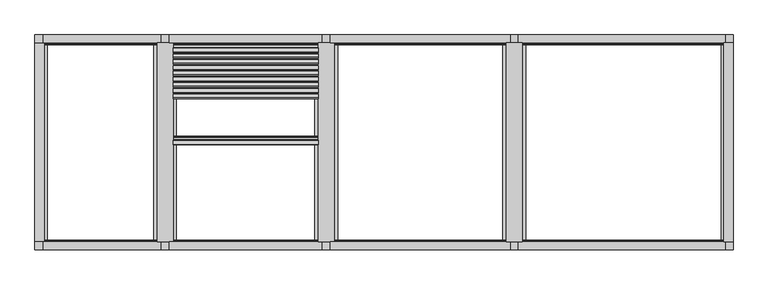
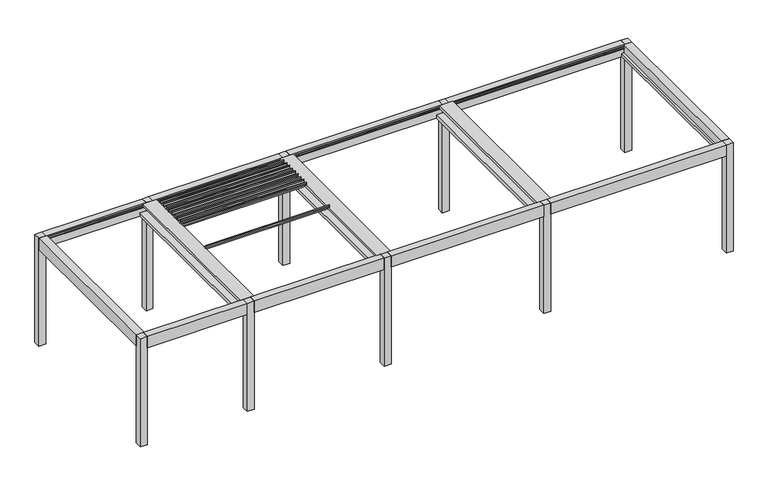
"""IFC4 building model written with IfcOpenShell, lengths in millimetres: proxy geometry, Renson_Camargue_Skye_Freestanding_Patio covers : Renson_Camargue_Skye_Freestanding_Patio covers."""

import ifcopenshell
import ifcopenshell.guid

model = None  # the IFC model being written
_history = None  # IfcOwnerHistory: only IFC2X3 demands one
_inside = {}  # id of a spatial element -> (the spatial element, [elements in it])
_under = {}  # id of a project, library or spatial element -> (it, [spatial elements below it])
_declared = {}  # id of a project -> (the project, [libraries it declares])
_typed = {}  # id of a type object -> (the type object, [elements of that type])
_made_of = {}  # id of a material, layer set ... -> (it, [elements and type objects made of it])


def new_model(schema):
    """Start an empty IFC model of exactly this schema.

    Asked for "IFC4X3", IfcOpenShell would pick the latest addendum, in which some entities
    have other attributes; the version numbers below select the first issue.
    IFC2X3 requires an IfcOwnerHistory on every rooted entity: one is made here for all.
    """
    global model, _history
    if schema == "IFC4X3":
        model = ifcopenshell.file(schema_version=(4, 3, 0, 0))
    else:
        model = ifcopenshell.file(schema=schema)
    _inside.clear()
    _under.clear()
    _declared.clear()
    _typed.clear()
    _made_of.clear()
    _history = None
    if model.schema == "IFC2X3":
        org = make("IfcOrganization", Name="unknown")
        user = make(
            "IfcPersonAndOrganization",
            ThePerson=make("IfcPerson", FamilyName="unknown"),
            TheOrganization=org,
        )
        app = make(
            "IfcApplication",
            ApplicationDeveloper=org,
            Version="unknown",
            ApplicationFullName="unknown",
            ApplicationIdentifier="unknown",
        )
        _history = make(
            "IfcOwnerHistory",
            OwningUser=user,
            OwningApplication=app,
            ChangeAction="ADDED",
            CreationDate=0,
        )
    return model


def make(cls, **values):
    """One entity of the class cls with the attributes given. An attribute that is None is left unset."""
    return model.create_entity(
        cls, **{name: value for name, value in values.items() if value is not None}
    )


def rooted(cls, **values):
    """An entity with a GlobalId (a new one), such as an element, a storey or a relation."""
    return make(cls, GlobalId=ifcopenshell.guid.new(), OwnerHistory=_history, **values)


def si_unit(unit_type, name, prefix=None):
    """IfcSIUnit, for example si_unit("LENGTHUNIT", "METRE", prefix="MILLI")."""
    return make("IfcSIUnit", UnitType=unit_type, Prefix=prefix, Name=name)


def assignment(units):
    """IfcUnitAssignment: the units of a project."""
    return None if units is None else make("IfcUnitAssignment", Units=units)


def point(xyz):
    """IfcCartesianPoint."""
    return None if xyz is None else make("IfcCartesianPoint", Coordinates=xyz)


def direction(xyz):
    """IfcDirection."""
    return None if xyz is None else make("IfcDirection", DirectionRatios=xyz)


def frame(location, z_axis=None, x_axis=None):
    """IfcAxis2Placement3D, a coordinate frame: its origin and axes. An axis left out is left unset."""
    return make(
        "IfcAxis2Placement3D",
        Location=point(location),
        Axis=direction(z_axis),
        RefDirection=direction(x_axis),
    )


def frame_2d(location, x_axis=None):
    """IfcAxis2Placement2D, a coordinate frame in the plane: its origin and x axis."""
    return make(
        "IfcAxis2Placement2D", Location=point(location), RefDirection=direction(x_axis)
    )


def origin():
    """The frame at (0, 0, 0) with its axes left unset."""
    return frame((0.0, 0.0, 0.0))


def origin_with_axes():
    """The frame at (0, 0, 0) with the z axis (0, 0, 1) and the x axis (1, 0, 0) written out."""
    return frame((0.0, 0.0, 0.0), z_axis=(0.0, 0.0, 1.0), x_axis=(1.0, 0.0, 0.0))


def place(relative_to, where):
    """IfcLocalPlacement: puts the frame where relative to a parent placement (None: the world)."""
    return make(
        "IfcLocalPlacement", PlacementRelTo=relative_to, RelativePlacement=where
    )


def context(
    kind, dimensions, precision=None, world=None, true_north=None, identifier=None
):
    """IfcGeometricRepresentationContext, for example the 3D "Model" context."""
    return make(
        "IfcGeometricRepresentationContext",
        ContextIdentifier=identifier,
        ContextType=kind,
        CoordinateSpaceDimension=dimensions,
        Precision=precision,
        WorldCoordinateSystem=world,
        TrueNorth=true_north,
    )


def project(units=None, contexts=None):
    """IfcProject with its units and contexts."""
    return rooted(
        "IfcProject",
        Name="project",
        RepresentationContexts=contexts,
        UnitsInContext=assignment(units),
    )


def spatial(cls, under=None, at=None, **own):
    """A site, building, storey or space (cls), placed at a placement, below another one or the project."""
    s = rooted(cls, ObjectPlacement=at, **own)
    if under is not None:
        _under.setdefault(under.id(), (under, []))[1].append(s)
    return s


def polyline(points):
    """IfcPolyline through the points."""
    return make("IfcPolyline", Points=[point(p) for p in points])


def circle_curve(where, radius):
    """IfcCircle in the frame where."""
    return make("IfcCircle", Position=where, Radius=radius)


def trimmed(basis, trim1, trim2, sense, master):
    """IfcTrimmedCurve: the piece of a basis curve between two trims."""
    return make(
        "IfcTrimmedCurve",
        BasisCurve=basis,
        Trim1=trim1,
        Trim2=trim2,
        SenseAgreement=sense,
        MasterRepresentation=master,
    )


def segment(curve, same_sense, transition):
    """IfcCompositeCurveSegment."""
    return make(
        "IfcCompositeCurveSegment",
        Transition=transition,
        SameSense=same_sense,
        ParentCurve=curve,
    )


def composite_curve(segments, self_intersect=None):
    """IfcCompositeCurve: segments joined end to end."""
    return make("IfcCompositeCurve", Segments=segments, SelfIntersect=self_intersect)


def outline(outer, holes=None, kind="AREA"):
    """IfcArbitraryClosedProfileDef: a profile drawn as a closed curve; with holes, ...WithVoids."""
    if holes is None:
        return make("IfcArbitraryClosedProfileDef", ProfileType=kind, OuterCurve=outer)
    return make(
        "IfcArbitraryProfileDefWithVoids",
        ProfileType=kind,
        OuterCurve=outer,
        InnerCurves=holes,
    )


def extrude(swept, where, along, depth):
    """IfcExtrudedAreaSolid: the profile swept, set in the frame where, extruded along a direction by depth."""
    return make(
        "IfcExtrudedAreaSolid",
        SweptArea=swept,
        Position=where,
        ExtrudedDirection=direction(along),
        Depth=depth,
    )


def shape(context_of_items, identifier, shape_type, items):
    """IfcShapeRepresentation: the items that make up one representation, for example the "Body"."""
    return make(
        "IfcShapeRepresentation",
        ContextOfItems=context_of_items,
        RepresentationIdentifier=identifier,
        RepresentationType=shape_type,
        Items=items,
    )


def source(mapping_origin, context_of_items, identifier, shape_type, items):
    """IfcRepresentationMap: a shape defined once, which mapped items show again and again."""
    return make(
        "IfcRepresentationMap",
        MappingOrigin=mapping_origin,
        MappedRepresentation=shape(context_of_items, identifier, shape_type, items),
    )


def transform(
    local_origin,
    x_axis=None,
    y_axis=None,
    z_axis=None,
    scale=None,
    scale2=None,
    scale3=None,
    uniform=True,
):
    """IfcCartesianTransformationOperator3D, or its non-uniform kind. x_axis, y_axis, z_axis: its Axis1, 2, 3."""
    if uniform:
        return make(
            "IfcCartesianTransformationOperator3D",
            Axis1=direction(x_axis),
            Axis2=direction(y_axis),
            LocalOrigin=point(local_origin),
            Scale=scale,
            Axis3=direction(z_axis),
        )
    return make(
        "IfcCartesianTransformationOperator3DnonUniform",
        Axis1=direction(x_axis),
        Axis2=direction(y_axis),
        LocalOrigin=point(local_origin),
        Scale=scale,
        Axis3=direction(z_axis),
        Scale2=scale2,
        Scale3=scale3,
    )


def mapped(mapping_source, mapping_target):
    """IfcMappedItem: shows the shape of a source again, moved by a transform."""
    return make(
        "IfcMappedItem", MappingSource=mapping_source, MappingTarget=mapping_target
    )


def made_of(thing, what):
    """Note that an element or type object is made of a material, layer set ...; save() writes the relation."""
    if what is not None:
        _made_of.setdefault(what.id(), (what, []))[1].append(thing)
    return thing


def element(
    cls,
    number,
    at=None,
    inside=None,
    cuts=None,
    type_object=None,
    material=None,
    context=None,
    identifier="Body",
    shape_type=None,
    held_by="IfcProductDefinitionShape",
    body=None,
    shapes=None,
    **own,
):
    """One element of the class cls, such as IfcWall. Its Tag is "e" and its number.

    at: its placement. inside: the storey or other place that contains it. cuts: it is an
    opening in that element (IfcRelVoidsElement). A single representation is given by context,
    identifier, shape_type and body (its items); several are given by shapes. held_by: the class
    of the entity that holds the representations. save() writes the other relations.
    """
    e = rooted(cls, Tag="e%d" % number, ObjectPlacement=at, **own)
    if body is not None:
        shapes = [shape(context, identifier, shape_type, body)]
    if shapes is not None:
        e.Representation = make(held_by, Representations=shapes)
    if inside is not None:
        _inside.setdefault(inside.id(), (inside, []))[1].append(e)
    if cuts is not None:
        rooted(
            "IfcRelVoidsElement", RelatingBuildingElement=cuts, RelatedOpeningElement=e
        )
    if type_object is not None:
        _typed.setdefault(type_object.id(), (type_object, []))[1].append(e)
    return made_of(e, material)


def aggregate(whole, parts):
    """IfcRelAggregates: a whole, such as a stair, and the parts it consists of."""
    return rooted("IfcRelAggregates", RelatingObject=whole, RelatedObjects=parts)


def save(model, path):
    """Write the relations noted so far, then the file.

    IfcRelAggregates (storeys below a building ...), IfcRelContainedInSpatialStructure (elements
    in a storey), IfcRelDefinesByType, IfcRelAssociatesMaterial and IfcRelDeclares: one each for
    every whole, place, type object, material and project.
    """
    for whole, parts in _under.values():
        aggregate(whole, parts)
    for where, things in _inside.values():
        rooted(
            "IfcRelContainedInSpatialStructure",
            RelatedElements=things,
            RelatingStructure=where,
        )
    for kind, things in _typed.values():
        rooted("IfcRelDefinesByType", RelatedObjects=things, RelatingType=kind)
    for what, things in _made_of.values():
        rooted("IfcRelAssociatesMaterial", RelatedObjects=things, RelatingMaterial=what)
    for by, libraries in _declared.values():
        rooted("IfcRelDeclares", RelatingContext=by, RelatedDefinitions=libraries)
    model.write(path)


def generic_models_66dec0f1(model_context):
    return source(origin(), model_context, "Body", "SweptSolid", [
        extrude(outline(composite_curve([segment(polyline([(812.2320431, 2532.0835122), (830.0807408, 2553.3547618), (810.6705224, 2574.7237457), (826.8854739, 2586.077577), (900.9291526, 2504.561844)]), True, "CONTINUOUS"), segment(trimmed(circle_curve(frame_2d((889.8258807, 2494.4763419)), 15.0), [point((900.9291526, 2504.561844))], [point((902.1131613, 2485.8726953))], False, "CARTESIAN"), True, "CONTINUOUS"), segment(polyline([(902.1131613, 2485.8726953), (890.9133855, 2469.8777579), (952.9519477, 2407.8391957), (967.1579217, 2417.7863257), (977.4414923, 2406.4649975), (959.3779041, 2384.9376513), (812.2320431, 2532.0835122)]), True, "CONTINUOUS")], self_intersect=False)), frame((1323.0, 0.0, 0.0), z_axis=(1.0, 0.0, 0.0), x_axis=(0.0, 1.0, 0.0)), (0.0, 0.0, 1.0), 2705.0),
        extrude(outline(composite_curve([segment(polyline([(919.7428479, 2532.0835122), (937.5915456, 2553.3547618), (918.1813272, 2574.7237457), (934.3962787, 2586.077577), (1008.4399574, 2504.561844)]), True, "CONTINUOUS"), segment(trimmed(circle_curve(frame_2d((997.3366854, 2494.4763419)), 15.0), [point((1008.4399574, 2504.561844))], [point((1009.6239661, 2485.8726953))], False, "CARTESIAN"), True, "CONTINUOUS"), segment(polyline([(1009.6239661, 2485.8726953), (998.4241903, 2469.8777579), (1060.4627525, 2407.8391957), (1074.6687265, 2417.7863257), (1084.9522971, 2406.4649975), (1066.8887088, 2384.9376513), (919.7428479, 2532.0835122)]), True, "CONTINUOUS")], self_intersect=False)), frame((1323.0, 0.0, 0.0), z_axis=(1.0, 0.0, 0.0), x_axis=(0.0, 1.0, 0.0)), (0.0, 0.0, 1.0), 2705.0),
        extrude(outline(composite_curve([segment(polyline([(1027.2536527, 2532.0835122), (1045.1023504, 2553.3547618), (1025.692132, 2574.7237457), (1041.9070835, 2586.077577), (1115.9507621, 2504.561844)]), True, "CONTINUOUS"), segment(trimmed(circle_curve(frame_2d((1104.8474902, 2494.4763419)), 15.0), [point((1115.9507621, 2504.561844))], [point((1117.1347709, 2485.8726953))], False, "CARTESIAN"), True, "CONTINUOUS"), segment(polyline([(1117.1347709, 2485.8726953), (1105.9349951, 2469.8777579), (1167.9735573, 2407.8391957), (1182.1795313, 2417.7863257), (1192.4631018, 2406.4649975), (1174.3995136, 2384.9376513), (1027.2536527, 2532.0835122)]), True, "CONTINUOUS")], self_intersect=False)), frame((1323.0, 0.0, 0.0), z_axis=(1.0, 0.0, 0.0), x_axis=(0.0, 1.0, 0.0)), (0.0, 0.0, 1.0), 2705.0),
        extrude(outline(composite_curve([segment(polyline([(1134.7644575, 2532.0835122), (1152.6131551, 2553.3547618), (1133.2029368, 2574.7237457), (1149.4178883, 2586.077577), (1223.4615669, 2504.561844)]), True, "CONTINUOUS"), segment(trimmed(circle_curve(frame_2d((1212.358295, 2494.4763419)), 15.0), [point((1223.4615669, 2504.561844))], [point((1224.6455757, 2485.8726953))], False, "CARTESIAN"), True, "CONTINUOUS"), segment(polyline([(1224.6455757, 2485.8726953), (1213.4457999, 2469.8777579), (1275.4843621, 2407.8391957), (1289.6903361, 2417.7863257), (1299.9739066, 2406.4649975), (1281.9103184, 2384.9376513), (1134.7644575, 2532.0835122)]), True, "CONTINUOUS")], self_intersect=False)), frame((1323.0, 0.0, 0.0), z_axis=(1.0, 0.0, 0.0), x_axis=(0.0, 1.0, 0.0)), (0.0, 0.0, 1.0), 2705.0),
        extrude(outline(composite_curve([segment(polyline([(1242.2752623, 2532.0835122), (1260.1239599, 2553.3547618), (1240.7137416, 2574.7237457), (1256.9286931, 2586.077577), (1330.9723717, 2504.561844)]), True, "CONTINUOUS"), segment(trimmed(circle_curve(frame_2d((1319.8690998, 2494.4763419)), 15.0), [point((1330.9723717, 2504.561844))], [point((1332.1563804, 2485.8726953))], False, "CARTESIAN"), True, "CONTINUOUS"), segment(polyline([(1332.1563804, 2485.8726953), (1320.9566047, 2469.8777579), (1382.9951668, 2407.8391957), (1397.2011408, 2417.7863257), (1407.4847114, 2406.4649975), (1389.4211232, 2384.9376513), (1242.2752623, 2532.0835122)]), True, "CONTINUOUS")], self_intersect=False)), frame((1323.0, 0.0, 0.0), z_axis=(1.0, 0.0, 0.0), x_axis=(0.0, 1.0, 0.0)), (0.0, 0.0, 1.0), 2705.0),
        extrude(outline(composite_curve([segment(polyline([(1349.786067, 2532.0835122), (1367.6347647, 2553.3547618), (1348.2245463, 2574.7237457), (1364.4394978, 2586.077577), (1438.4831765, 2504.561844)]), True, "CONTINUOUS"), segment(trimmed(circle_curve(frame_2d((1427.3799046, 2494.4763419)), 15.0), [point((1438.4831765, 2504.561844))], [point((1439.6671852, 2485.8726953))], False, "CARTESIAN"), True, "CONTINUOUS"), segment(polyline([(1439.6671852, 2485.8726953), (1428.4674094, 2469.8777579), (1490.5059716, 2407.8391957), (1504.7119456, 2417.7863257), (1514.9955162, 2406.4649975), (1496.931928, 2384.9376513), (1349.786067, 2532.0835122)]), True, "CONTINUOUS")], self_intersect=False)), frame((1323.0, 0.0, 0.0), z_axis=(1.0, 0.0, 0.0), x_axis=(0.0, 1.0, 0.0)), (0.0, 0.0, 1.0), 2705.0),
        extrude(outline(composite_curve([segment(polyline([(1457.2968718, 2532.0835122), (1475.1455695, 2553.3547618), (1455.7353511, 2574.7237457), (1471.9503026, 2586.077577), (1545.9939813, 2504.561844)]), True, "CONTINUOUS"), segment(trimmed(circle_curve(frame_2d((1534.8907093, 2494.4763419)), 15.0), [point((1545.9939813, 2504.561844))], [point((1547.17799, 2485.8726953))], False, "CARTESIAN"), True, "CONTINUOUS"), segment(polyline([(1547.17799, 2485.8726953), (1535.9782142, 2469.8777579), (1598.0167764, 2407.8391957), (1612.2227504, 2417.7863257), (1622.506321, 2406.4649975), (1604.4427327, 2384.9376513), (1457.2968718, 2532.0835122)]), True, "CONTINUOUS")], self_intersect=False)), frame((1323.0, 0.0, 0.0), z_axis=(1.0, 0.0, 0.0), x_axis=(0.0, 1.0, 0.0)), (0.0, 0.0, 1.0), 2705.0),
        extrude(outline(composite_curve([segment(polyline([(1564.8076766, 2532.0835122), (1582.6563743, 2553.3547618), (1563.2461559, 2574.7237457), (1579.4611074, 2586.077577), (1653.504786, 2504.561844)]), True, "CONTINUOUS"), segment(trimmed(circle_curve(frame_2d((1642.4015141, 2494.4763419)), 15.0), [point((1653.504786, 2504.561844))], [point((1654.6887948, 2485.8726953))], False, "CARTESIAN"), True, "CONTINUOUS"), segment(polyline([(1654.6887948, 2485.8726953), (1643.489019, 2469.8777579), (1705.5275812, 2407.8391957), (1719.7335552, 2417.7863257), (1730.0171257, 2406.4649975), (1711.9535375, 2384.9376513), (1564.8076766, 2532.0835122)]), True, "CONTINUOUS")], self_intersect=False)), frame((1323.0, 0.0, 0.0), z_axis=(1.0, 0.0, 0.0), x_axis=(0.0, 1.0, 0.0)), (0.0, 0.0, 1.0), 2705.0),
        extrude(outline(composite_curve([segment(polyline([(-47.8543951, 2532.0835122), (-30.0056975, 2553.3547618), (-49.4159158, 2574.7237457), (-33.2009643, 2586.077577), (40.8427143, 2504.561844)]), True, "CONTINUOUS"), segment(trimmed(circle_curve(frame_2d((29.7394424, 2494.4763419)), 15.0), [point((40.8427143, 2504.561844))], [point((42.0267231, 2485.8726953))], False, "CARTESIAN"), True, "CONTINUOUS"), segment(polyline([(42.0267231, 2485.8726953), (30.8269473, 2469.8777579), (92.8655095, 2407.8391957), (107.0714835, 2417.7863257), (117.355054, 2406.4649975), (99.2914658, 2384.9376513), (-47.8543951, 2532.0835122)]), True, "CONTINUOUS")], self_intersect=False)), frame((1323.0, 0.0, 0.0), z_axis=(1.0, 0.0, 0.0), x_axis=(0.0, 1.0, 0.0)), (0.0, 0.0, 1.0), 2705.0),
        extrude(outline(composite_curve([segment(polyline([(1672.3184814, 2532.0835122), (1690.1671791, 2553.3547618), (1670.7569607, 2574.7237457), (1686.9719122, 2586.077577), (1761.0155908, 2504.561844)]), True, "CONTINUOUS"), segment(trimmed(circle_curve(frame_2d((1749.9123189, 2494.4763419)), 15.0), [point((1761.0155908, 2504.561844))], [point((1762.1995996, 2485.8726953))], False, "CARTESIAN"), True, "CONTINUOUS"), segment(polyline([(1762.1995996, 2485.8726953), (1750.9998238, 2469.8777579), (1813.038386, 2407.8391957), (1827.24436, 2417.7863257), (1837.5279305, 2406.4649975), (1819.4643423, 2384.9376513), (1672.3184814, 2532.0835122)]), True, "CONTINUOUS")], self_intersect=False)), frame((1323.0, 0.0, 0.0), z_axis=(1.0, 0.0, 0.0), x_axis=(0.0, 1.0, 0.0)), (0.0, 0.0, 1.0), 2705.0),
        extrude(outline(polyline([(2250.0, 7885.0), (2322.0, 7885.0), (2322.0, 7695.0), (2456.0, 7695.0), (2456.0, 7823.0), (2510.0, 7823.0), (2510.0, 7527.0), (2456.0, 7527.0), (2456.0, 7655.0), (2322.0, 7655.0), (2322.0, 7465.0), (2250.0, 7465.0), (2250.0, 7885.0)])), frame((0.0, -1850.0, 0.0), z_axis=(0.0, 1.0, 0.0), x_axis=(0.0, 0.0, 1.0)), (0.0, 0.0, 1.0), 3700.0),
        extrude(outline(polyline([(2510.0, 11580.0), (2322.0, 11580.0), (2322.0, 11530.0), (2250.0, 11530.0), (2250.0, 11750.0), (2510.0, 11750.0), (2510.0, 11580.0)])), frame((0.0, -1850.0, 0.0), z_axis=(0.0, 1.0, 0.0), x_axis=(0.0, 0.0, 1.0)), (0.0, 0.0, 1.0), 3700.0),
        extrude(outline(polyline([(1850.0, 2441.6559373), (1824.0, 2441.6559373), (1820.2487113, 2455.6555802), (1829.5940945, 2455.6555802), (1845.0, 2471.400763), (1845.0, 2479.2449277), (1850.0, 2479.6823598), (1850.0, 2441.6559373)])), frame((7750.0, 0.0, 0.0), z_axis=(1.0, 0.0, 0.0), x_axis=(0.0, 1.0, 0.0)), (0.0, 0.0, 1.0), 3850.0),
        extrude(outline(polyline([(11600.0, 2000.0), (11600.0, 1850.0), (7750.0, 1850.0), (7750.0, 2000.0), (11600.0, 2000.0)])), frame((0.0, 0.0, 2250.0), z_axis=(0.0, 0.0, 1.0), x_axis=(1.0, 0.0, 0.0)), (0.0, 0.0, 1.0), 260.0),
        extrude(outline(polyline([(-2000.0, 2250.0), (-2000.0, 2510.0), (-1850.0, 2510.0), (-1850.0, 2479.6823598), (-1845.0, 2479.2449277), (-1845.0, 2471.400763), (-1829.2544156, 2455.6555802), (-1819.9090324, 2455.6555802), (-1823.6603211, 2441.6559373), (-1850.0, 2441.6559373), (-1850.0, 2250.0), (-2000.0, 2250.0)])), frame((7750.0, 0.0, 0.0), z_axis=(1.0, 0.0, 0.0), x_axis=(0.0, 1.0, 0.0)), (0.0, 0.0, 1.0), 3850.0),
        extrude(outline(polyline([(11750.0, 1850.0), (11600.0, 1850.0), (11600.0, 2000.0), (11750.0, 2000.0), (11750.0, 1850.0)])), origin_with_axes(), (0.0, 0.0, 1.0), 2510.0),
        extrude(outline(polyline([(11750.0, -1850.0), (11750.0, -2000.0), (11600.0, -2000.0), (11600.0, -1850.0), (11750.0, -1850.0)])), origin_with_axes(), (0.0, 0.0, 1.0), 2510.0),
        extrude(outline(polyline([(1850.0, 2441.6559373), (1824.0, 2441.6559373), (1820.2487113, 2455.6555802), (1829.5940945, 2455.6555802), (1845.0, 2471.400763), (1845.0, 2479.2449277), (1850.0, 2479.6823598), (1850.0, 2441.6559373)])), frame((4250.0, 0.0, 0.0), z_axis=(1.0, 0.0, 0.0), x_axis=(0.0, 1.0, 0.0)), (0.0, 0.0, 1.0), 3350.0),
        extrude(outline(polyline([(-1850.0, 2479.6823598), (-1845.0, 2479.2449277), (-1845.0, 2471.400763), (-1829.2544156, 2455.6555802), (-1819.9090324, 2455.6555802), (-1823.6603211, 2441.6559373), (-1850.0, 2441.6559373), (-1850.0, 2250.0), (-2000.0, 2250.0), (-2000.0, 2510.0), (-1850.0, 2510.0), (-1850.0, 2479.6823598)])), frame((4250.0, 0.0, 0.0), z_axis=(1.0, 0.0, 0.0), x_axis=(0.0, 1.0, 0.0)), (0.0, 0.0, 1.0), 3350.0),
        extrude(outline(polyline([(7600.0, 2000.0), (7600.0, 1850.0), (4250.0, 1850.0), (4250.0, 2000.0), (7600.0, 2000.0)])), frame((0.0, 0.0, 2250.0), z_axis=(0.0, 0.0, 1.0), x_axis=(1.0, 0.0, 0.0)), (0.0, 0.0, 1.0), 260.0),
        extrude(outline(polyline([(2250.0, 4385.0), (2322.0, 4385.0), (2322.0, 4195.0), (2456.0, 4195.0), (2456.0, 4323.0), (2510.0, 4323.0), (2510.0, 4027.0), (2456.0, 4027.0), (2456.0, 4155.0), (2322.0, 4155.0), (2322.0, 3965.0), (2250.0, 3965.0), (2250.0, 4385.0)])), frame((0.0, -1850.0, 0.0), z_axis=(0.0, 1.0, 0.0), x_axis=(0.0, 0.0, 1.0)), (0.0, 0.0, 1.0), 3700.0),
        extrude(outline(polyline([(7750.0, 2000.0), (7750.0, 1850.0), (7600.0, 1850.0), (7600.0, 2000.0), (7750.0, 2000.0)])), origin_with_axes(), (0.0, 0.0, 1.0), 2510.0),
        extrude(outline(polyline([(7750.0, -2000.0), (7600.0, -2000.0), (7600.0, -1850.0), (7750.0, -1850.0), (7750.0, -2000.0)])), origin_with_axes(), (0.0, 0.0, 1.0), 2510.0),
        extrude(outline(polyline([(1850.0, 2441.6559373), (1824.0, 2441.6559373), (1820.2487113, 2455.6555802), (1829.5940945, 2455.6555802), (1845.0, 2471.400763), (1845.0, 2479.2449277), (1850.0, 2479.6823598), (1850.0, 2441.6559373)])), frame((1250.0, 0.0, 0.0), z_axis=(1.0, 0.0, 0.0), x_axis=(0.0, 1.0, 0.0)), (0.0, 0.0, 1.0), 2850.0),
        extrude(outline(polyline([(4250.0, 2000.0), (4250.0, 1850.0), (4100.0, 1850.0), (4100.0, 2000.0), (4250.0, 2000.0)])), origin_with_axes(), (0.0, 0.0, 1.0), 2510.0),
        extrude(outline(polyline([(4250.0, -2000.0), (4100.0, -2000.0), (4100.0, -1850.0), (4250.0, -1850.0), (4250.0, -2000.0)])), origin_with_axes(), (0.0, 0.0, 1.0), 2510.0),
        extrude(outline(polyline([(4100.0, 2000.0), (4100.0, 1850.0), (1250.0, 1850.0), (1250.0, 2000.0), (4100.0, 2000.0)])), frame((0.0, 0.0, 2250.0), z_axis=(0.0, 0.0, 1.0), x_axis=(1.0, 0.0, 0.0)), (0.0, 0.0, 1.0), 260.0),
        extrude(outline(polyline([(-1850.0, 2250.0), (-2000.0, 2250.0), (-2000.0, 2510.0), (-1850.0, 2510.0), (-1850.0, 2479.6823598), (-1845.0, 2479.2449277), (-1845.0, 2471.400763), (-1829.2544156, 2455.6555802), (-1819.9090324, 2455.6555802), (-1823.6603211, 2441.6559373), (-1850.0, 2441.6559373), (-1850.0, 2250.0)])), frame((1250.0, 0.0, 0.0), z_axis=(1.0, 0.0, 0.0), x_axis=(0.0, 1.0, 0.0)), (0.0, 0.0, 1.0), 2850.0),
        extrude(outline(polyline([(2510.0, 1027.0), (2456.0, 1027.0), (2456.0, 1155.0), (2322.0, 1155.0), (2322.0, 965.0), (2250.0, 965.0), (2250.0, 1385.0), (2322.0, 1385.0), (2322.0, 1195.0), (2456.0, 1195.0), (2456.0, 1323.0), (2510.0, 1323.0), (2510.0, 1027.0)])), frame((0.0, -1850.0, 0.0), z_axis=(0.0, 1.0, 0.0), x_axis=(0.0, 0.0, 1.0)), (0.0, 0.0, 1.0), 3700.0),
        extrude(outline(polyline([(1850.0, 2441.6559373), (1824.0, 2441.6559373), (1820.2487113, 2455.6555802), (1829.5940945, 2455.6555802), (1845.0, 2471.400763), (1845.0, 2479.2449277), (1850.0, 2479.6823598), (1850.0, 2441.6559373)])), frame((-1100.0, 0.0, 0.0), z_axis=(1.0, 0.0, 0.0), x_axis=(0.0, 1.0, 0.0)), (0.0, 0.0, 1.0), 2200.0),
        extrude(outline(polyline([(-1100.0, 2000.0), (-1100.0, 1850.0), (-1250.0, 1850.0), (-1250.0, 2000.0), (-1100.0, 2000.0)])), origin_with_axes(), (0.0, 0.0, 1.0), 2510.0),
        extrude(outline(polyline([(1250.0, 2000.0), (1250.0, 1850.0), (1100.0, 1850.0), (1100.0, 2000.0), (1250.0, 2000.0)])), origin_with_axes(), (0.0, 0.0, 1.0), 2510.0),
        extrude(outline(polyline([(1250.0, -1850.0), (1250.0, -2000.0), (1100.0, -2000.0), (1100.0, -1850.0), (1250.0, -1850.0)])), origin_with_axes(), (0.0, 0.0, 1.0), 2510.0),
        extrude(outline(polyline([(-1100.0, -1850.0), (-1100.0, -2000.0), (-1250.0, -2000.0), (-1250.0, -1850.0), (-1100.0, -1850.0)])), origin_with_axes(), (0.0, 0.0, 1.0), 2510.0),
        extrude(outline(polyline([(-1850.0, 2510.0), (-1850.0, 2479.6823598), (-1845.0, 2479.2449277), (-1845.0, 2471.400763), (-1829.2544156, 2455.6555802), (-1819.9090324, 2455.6555802), (-1823.6603211, 2441.6559373), (-1850.0, 2441.6559373), (-1850.0, 2250.0), (-2000.0, 2250.0), (-2000.0, 2510.0), (-1850.0, 2510.0)])), frame((-1100.0, 0.0, 0.0), z_axis=(1.0, 0.0, 0.0), x_axis=(0.0, 1.0, 0.0)), (0.0, 0.0, 1.0), 2200.0),
        extrude(outline(polyline([(1100.0, 2000.0), (1100.0, 1850.0), (-1100.0, 1850.0), (-1100.0, 2000.0), (1100.0, 2000.0)])), frame((0.0, 0.0, 2250.0), z_axis=(0.0, 0.0, 1.0), x_axis=(1.0, 0.0, 0.0)), (0.0, 0.0, 1.0), 260.0),
        extrude(outline(polyline([(2510.0, -1080.0), (2510.0, -1250.0), (2250.0, -1250.0), (2250.0, -1020.0), (2322.0, -1020.0), (2322.0, -1080.0), (2510.0, -1080.0)])), frame((0.0, -1850.0, 0.0), z_axis=(0.0, 1.0, 0.0), x_axis=(0.0, 0.0, 1.0)), (0.0, 0.0, 1.0), 3700.0),
    ])


if __name__ == "__main__":
    model = new_model("IFC4")
    model_context = context("Model", 3, world=origin())
    ifc_project = project(units=[si_unit("LENGTHUNIT", "METRE", prefix="MILLI")], contexts=[model_context])
    site = spatial("IfcSite", under=ifc_project)
    building = spatial("IfcBuilding", under=site)
    placement = place(None, origin())
    generic_models_shape = generic_models_66dec0f1(model_context)
    element("IfcBuildingElementProxy", 1, Name="Renson_Camargue_Skye_Freestanding_Patio covers : Renson_Camargue_Skye_Freestanding_Patio covers", ObjectType="Renson_Camargue_Skye_Freestanding_Patio covers : Renson_Camargue_Skye_Freestanding_Patio covers", at=placement, inside=building, context=model_context, shape_type="MappedRepresentation", body=[
        mapped(generic_models_shape, transform((0.0, 0.0, 0.0), x_axis=(1.0, 0.0, 0.0), y_axis=(0.0, 1.0, 0.0), z_axis=(0.0, 0.0, 1.0))),
    ])
    save(model, "model.ifc")
